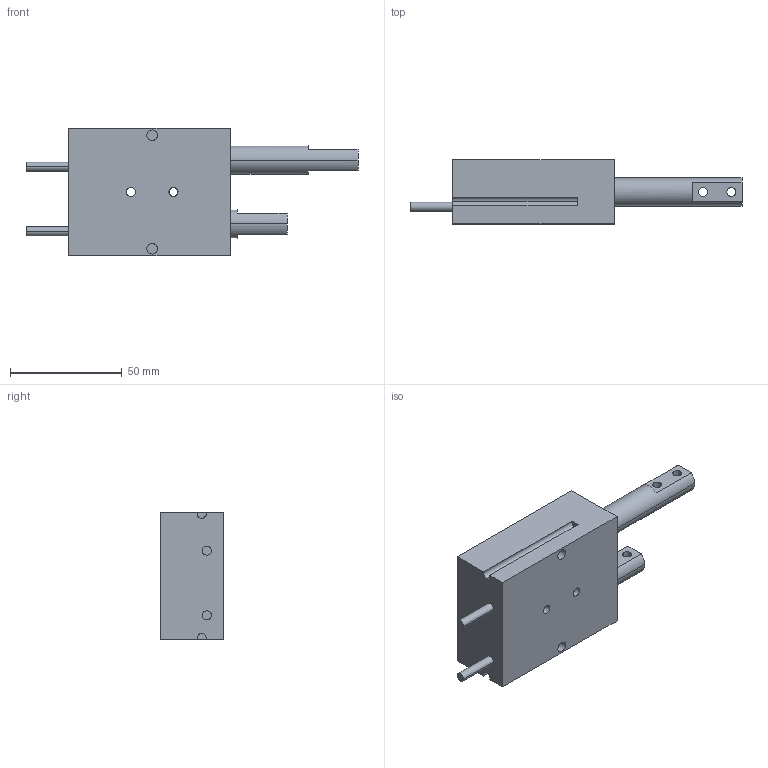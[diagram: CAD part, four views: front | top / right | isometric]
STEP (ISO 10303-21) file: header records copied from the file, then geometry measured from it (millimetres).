
FILE_DESCRIPTION (( 'STEP AP203' ), '1' );
FILE_NAME ('AGE-2 in IN.STEP', '2014-11-19T15:01:52', ( 'setup' ), ( '' ), 'SwSTEP 2.0', 'SolidWorks 2013', '' );
FILE_SCHEMA (( 'CONFIG_CONTROL_DESIGN' ));
Length unit declared in the file: inch
Products named in the file (5): AGE-2 FE-BUSHING; AGE-2 in IN; AGE-2 FER; AGE-2 FEAS; AGE-2 FE-BODY
Assembly tree (7 placements, depth 2):
  AGE-2 in IN
    AGE-2 FE-BODY
    AGE-2 FE-BUSHING  x2
    AGE-2 FER  x2
    AGE-2 FEAS  x2
Bounding box: 148.69 x 28.57 x 57.15 mm (x, y, z)
Volume: 109380 mm3; surface area: 32812.8 mm2
Topology: 7 solids, 7 shells, 125 faces, 267 edges, 178 vertices
Faces by surface type: cylinder 75, plane 50
Entity records: 3332 total; most frequent: DIRECTION 543, CARTESIAN_POINT 452, ORIENTED_EDGE 414, AXIS2_PLACEMENT_3D 229, EDGE_CURVE 207, VERTEX_POINT 138, EDGE_LOOP 127, CIRCLE 122
